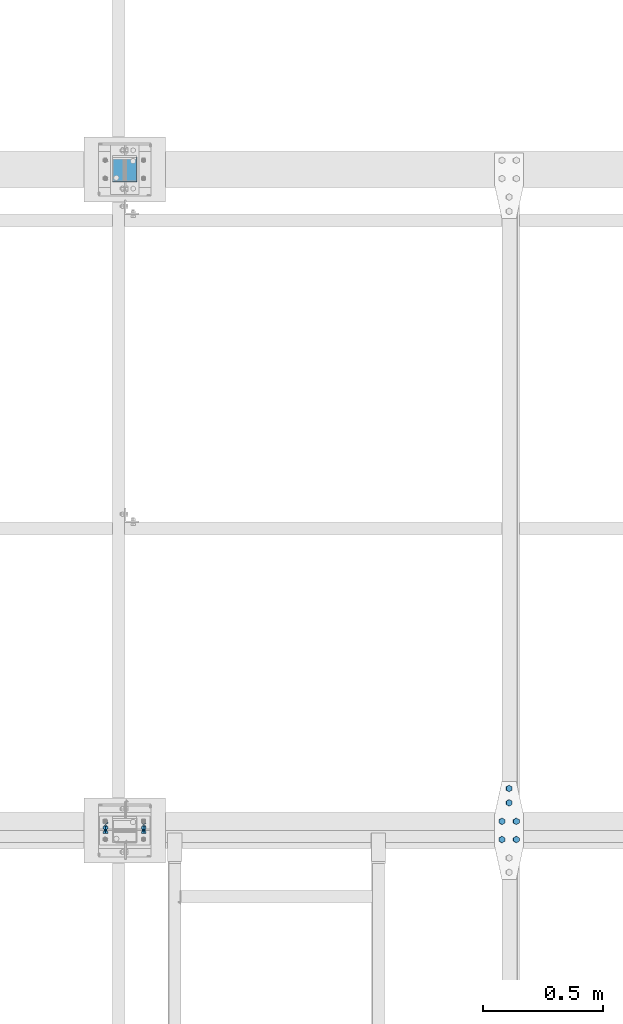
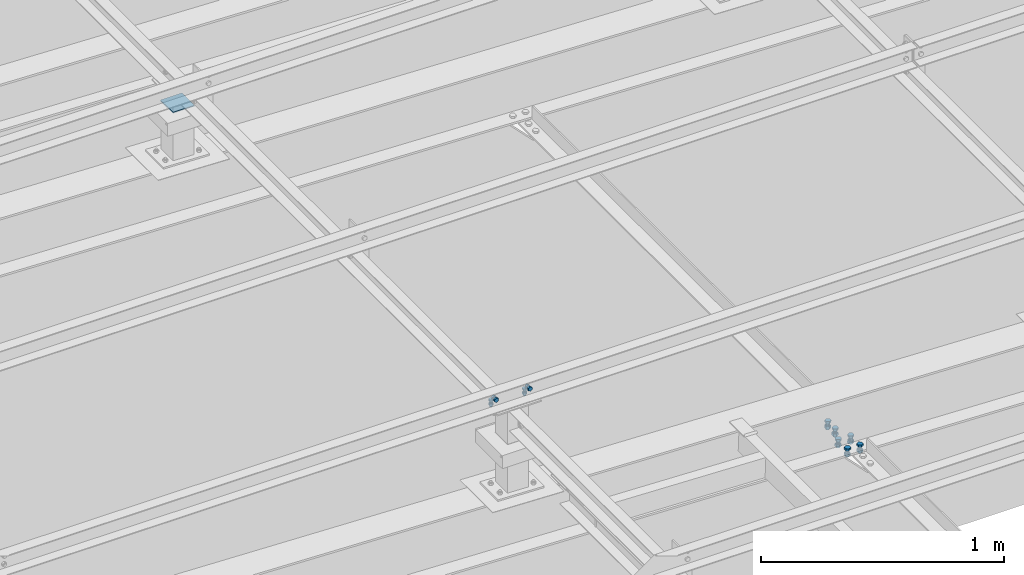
# One storey, part 212 of 3134: 5 mechanical fasteners, 3 elements without a shape of their own.
"""IFC2X3 building model written with IfcOpenShell, lengths in millimetres."""

from ifc_helpers import new_model, si_unit, frame, origin_with_axes, place, context, subcontext, project, spatial, faceted_brep, source, transform, mapped, material, type_object, element, aggregate, save


model = new_model("IFC2X3")

# Units and contexts
model_context = context("Model", 3, precision=1e-05, world=origin_with_axes())
body_context = subcontext(model_context, "Body", "Model", "MODEL_VIEW")
ifc_project = project(units=[si_unit("LENGTHUNIT", "METRE", prefix="MILLI"), si_unit("AREAUNIT", "SQUARE_METRE"), si_unit("VOLUMEUNIT", "CUBIC_METRE"), si_unit("MASSUNIT", "GRAM", prefix="KILO"), si_unit("TIMEUNIT", "SECOND"), si_unit("PLANEANGLEUNIT", "RADIAN"), si_unit("SOLIDANGLEUNIT", "STERADIAN"), si_unit("THERMODYNAMICTEMPERATUREUNIT", "DEGREE_CELSIUS"), si_unit("LUMINOUSINTENSITYUNIT", "LUMEN")], contexts=[model_context])

# Site, building, storey
site_placement = place(None, origin_with_axes())
site = spatial("IfcSite", under=ifc_project, at=site_placement, CompositionType="ELEMENT")
building_placement = place(site_placement, origin_with_axes())
building = spatial("IfcBuilding", under=site, at=building_placement, Name="Undefined", CompositionType="ELEMENT")
storey_placement = place(building_placement, origin_with_axes())
storey = spatial("IfcBuildingStorey", under=building, at=storey_placement, Name="Undefined", CompositionType="ELEMENT", Elevation=0.0)

# Assembly, mechanical fastener
assembly_1_placement = place(storey_placement, origin_with_axes())
assembly_1 = element("IfcElementAssembly", 1, at=assembly_1_placement, inside=storey, AssemblyPlace="NOTDEFINED", PredefinedType="RIGID_FRAME")
ifc_material_1 = material(Name="8.8")
mechanical_fastener_type = type_object("IfcMechanicalFastenerType", Name="Bolt assembly")
shared_shape_1 = source(origin_with_axes(), body_context, "Body", "Brep", [
    faceted_brep([(10.9696551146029, -14.0, 0.0), (5.48482755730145, -14.0, 9.5), (-5.48482755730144, -14.0, 9.5), (-10.9696551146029, -14.0, 1.34339530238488e-15), (-5.48482755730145, -14.0, -9.5), (5.48482755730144, -14.0, -9.50000000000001), (5.48482755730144, -6.0, -9.50000000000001), (-5.48482755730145, -6.0, -9.5), (-10.9696551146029, -6.0, 1.34339530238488e-15), (-5.48482755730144, -6.0, 9.5), (5.48482755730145, -6.0, 9.5), (10.9696551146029, -6.0, 0.0), (6.0, -6.0, 0.0), (5.19615242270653, -6.0, 3.00000000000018), (2.99999999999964, -6.0, 5.19615242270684), (-6.21801588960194e-13, -6.0, 6.0), (-3.00000000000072, -6.0, 5.19615242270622), (-5.19615242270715, -6.0, 2.9999999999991), (-6.0, -6.0, -1.24360317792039e-12), (-5.19615242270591, -6.0, -3.00000000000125), (-2.99999999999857, -6.0, -5.19615242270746), (1.85874342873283e-12, -6.0, -6.0), (3.00000000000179, -6.0, -5.1961524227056), (5.19615242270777, -6.0, -2.99999999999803), (5.19615242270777, 24.0, -2.99999999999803), (3.00000000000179, 24.0, -5.1961524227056), (1.85874342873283e-12, 24.0, -6.0), (-2.99999999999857, 24.0, -5.19615242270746), (-5.19615242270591, 24.0, -3.00000000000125), (-6.0, 24.0, -1.24360317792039e-12), (-5.19615242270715, 24.0, 2.9999999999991), (-3.00000000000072, 24.0, 5.19615242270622), (-6.21801588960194e-13, 24.0, 6.0), (2.99999999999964, 24.0, 5.19615242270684), (5.19615242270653, 24.0, 3.00000000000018), (6.0, 24.0, 0.0), (10.9696551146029, 6.00000000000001, 0.0), (5.48482755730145, 6.00000000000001, 9.5), (-5.48482755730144, 6.00000000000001, 9.5), (-10.9696551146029, 6.00000000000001, 1.34339530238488e-15), (-5.48482755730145, 6.00000000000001, -9.5), (5.48482755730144, 6.00000000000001, -9.50000000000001), (5.48482755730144, 16.0, -9.50000000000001), (-5.48482755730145, 16.0, -9.5), (-10.9696551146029, 16.0, 1.34339530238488e-15), (-5.48482755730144, 16.0, 9.5), (5.48482755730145, 16.0, 9.5), (10.9696551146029, 16.0, 0.0)], [[[0, 1, 2, 3, 4, 5]], [[6, 7, 8, 9, 10, 11]], [[0, 11, 10, 1]], [[1, 10, 9, 2]], [[2, 9, 8, 3]], [[3, 8, 7, 4]], [[4, 7, 6, 5]], [[5, 6, 11, 0]], [[12, 13, 14, 15, 16, 17, 18, 19, 20, 21, 22, 23]], [[24, 25, 26, 27, 28, 29, 30, 31, 32, 33, 34, 35]], [[12, 35, 34, 13]], [[13, 34, 33, 14]], [[14, 33, 32, 15]], [[15, 32, 31, 16]], [[16, 31, 30, 17]], [[17, 30, 29, 18]], [[18, 29, 28, 19]], [[19, 28, 27, 20]], [[20, 27, 26, 21]], [[21, 26, 25, 22]], [[22, 25, 24, 23]], [[23, 24, 35, 12]], [[36, 37, 38, 39, 40, 41]], [[42, 43, 44, 45, 46, 47]], [[36, 47, 46, 37]], [[37, 46, 45, 38]], [[38, 45, 44, 39]], [[39, 44, 43, 40]], [[40, 43, 42, 41]], [[41, 42, 47, 36]]]),
    faceted_brep([(7.0, -0.1, 0.0), (6.06217782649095, -0.1, 3.50000000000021), (3.49999999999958, -0.1, 6.06217782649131), (-7.25435187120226e-13, -0.1, 7.0), (-3.50000000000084, -0.1, 6.06217782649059), (-6.06217782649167, -0.1, 3.49999999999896), (-7.0, -0.1, -1.45087037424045e-12), (-6.06217782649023, -0.1, -3.50000000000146), (-3.49999999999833, -0.1, -6.06217782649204), (2.1685340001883e-12, -0.1, -7.0), (3.50000000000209, -0.1, -6.06217782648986), (6.0621778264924, -0.1, -3.4999999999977), (6.0621778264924, 6.00000000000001, -3.4999999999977), (3.50000000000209, 6.00000000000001, -6.06217782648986), (2.1685340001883e-12, 6.00000000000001, -7.0), (-3.49999999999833, 6.00000000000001, -6.06217782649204), (-6.06217782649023, 6.00000000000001, -3.50000000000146), (-7.0, 6.00000000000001, -1.45087037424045e-12), (-6.06217782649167, 6.00000000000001, 3.49999999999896), (-3.50000000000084, 6.00000000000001, 6.06217782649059), (-7.25435187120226e-13, 6.00000000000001, 7.0), (3.49999999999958, 6.00000000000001, 6.06217782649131), (6.06217782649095, 6.00000000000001, 3.50000000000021), (7.0, 6.00000000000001, 0.0), (7.0, -5.9, 0.0), (6.06217782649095, -5.9, 3.50000000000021), (3.49999999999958, -5.9, 6.06217782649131), (-7.25435187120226e-13, -5.9, 7.0), (-3.50000000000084, -5.9, 6.06217782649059), (-6.06217782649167, -5.9, 3.49999999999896), (-7.0, -5.9, -1.45087037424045e-12), (-6.06217782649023, -5.9, -3.50000000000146), (-3.49999999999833, -5.9, -6.06217782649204), (2.1685340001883e-12, -5.9, -7.0), (3.50000000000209, -5.9, -6.06217782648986), (6.0621778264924, -5.9, -3.4999999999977), (6.0621778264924, 0.0999999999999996, -3.4999999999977), (3.50000000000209, 0.0999999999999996, -6.06217782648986), (2.1685340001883e-12, 0.0999999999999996, -7.0), (-3.49999999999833, 0.0999999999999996, -6.06217782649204), (-6.06217782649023, 0.0999999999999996, -3.50000000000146), (-7.0, 0.0999999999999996, -1.45087037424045e-12), (-6.06217782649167, 0.0999999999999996, 3.49999999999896), (-3.50000000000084, 0.0999999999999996, 6.06217782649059), (-7.25435187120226e-13, 0.0999999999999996, 7.0), (3.49999999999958, 0.0999999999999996, 6.06217782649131), (6.06217782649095, 0.0999999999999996, 3.50000000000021), (7.0, 0.0999999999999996, 0.0)], [[[0, 1, 2, 3, 4, 5, 6, 7, 8, 9, 10, 11]], [[12, 13, 14, 15, 16, 17, 18, 19, 20, 21, 22, 23]], [[0, 23, 22, 1]], [[1, 22, 21, 2]], [[2, 21, 20, 3]], [[3, 20, 19, 4]], [[4, 19, 18, 5]], [[5, 18, 17, 6]], [[6, 17, 16, 7]], [[7, 16, 15, 8]], [[8, 15, 14, 9]], [[9, 14, 13, 10]], [[10, 13, 12, 11]], [[11, 12, 23, 0]], [[24, 25, 26, 27, 28, 29, 30, 31, 32, 33, 34, 35]], [[36, 37, 38, 39, 40, 41, 42, 43, 44, 45, 46, 47]], [[24, 47, 46, 25]], [[25, 46, 45, 26]], [[26, 45, 44, 27]], [[27, 44, 43, 28]], [[28, 43, 42, 29]], [[29, 42, 41, 30]], [[30, 41, 40, 31]], [[31, 40, 39, 32]], [[32, 39, 38, 33]], [[33, 38, 37, 34]], [[34, 37, 36, 35]], [[35, 36, 47, 24]]]),
])
mechanical_fastener_1_placement = place(assembly_1_placement, frame((3043.33, 45801.66, 4365.0), z_axis=(1.0, 0.0, 0.0), x_axis=(0.0, -1.0, 0.0)))
mechanical_fastener_1 = element("IfcMechanicalFastener", 2, at=mechanical_fastener_1_placement, type_object=mechanical_fastener_type, material=ifc_material_1, Name="Bolt assembly", NominalDiameter=12.0, NominalLength=30.0, context=body_context, shape_type="MappedRepresentation", body=[
    mapped(shared_shape_1, transform((0.0, -5.32963895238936e-10, -79.9999999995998))),
    mapped(shared_shape_1, transform((0.0, 5.3114490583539e-10, 79.9999999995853))),
])

# Assembly, mechanical fasteners
assembly_2_placement = place(storey_placement, origin_with_axes())
assembly_2 = element("IfcElementAssembly", 3, at=assembly_2_placement, inside=storey, Name="PL8", AssemblyPlace="NOTDEFINED", PredefinedType="RIGID_FRAME")
shared_shape_2 = source(origin_with_axes(), body_context, "Body", "Brep", [
    faceted_brep([(13.856406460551, -21.0000017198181, 0.0), (6.92820323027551, -21.0000017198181, 12.0), (-6.92820323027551, -21.0000017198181, 12.0), (-13.856406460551, -21.0000017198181, 1.69692038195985e-15), (-6.92820323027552, -21.0000017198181, -12.0), (6.9282032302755, -21.0000017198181, -12.0), (6.9282032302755, -11.0000017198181, -12.0), (-6.92820323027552, -11.0000017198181, -12.0), (-13.856406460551, -11.0000017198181, 1.69692038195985e-15), (-6.92820323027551, -11.0000017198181, 12.0), (6.92820323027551, -11.0000017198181, 12.0), (13.856406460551, -11.0000017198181, 0.0), (8.0, -11.0000017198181, 0.0), (6.92820323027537, -11.0000017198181, 4.00000000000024), (3.99999999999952, -11.0000017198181, 6.92820323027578), (-8.29068785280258e-13, -11.0000017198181, 8.0), (-4.00000000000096, -11.0000017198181, 6.92820323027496), (-6.9282032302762, -11.0000017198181, 3.99999999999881), (-8.0, -11.0000017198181, -1.65813757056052e-12), (-6.92820323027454, -11.0000017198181, -4.00000000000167), (-3.99999999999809, -11.0000017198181, -6.92820323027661), (2.47832457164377e-12, -11.0000017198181, -8.0), (4.00000000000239, -11.0000017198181, -6.92820323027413), (6.92820323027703, -11.0000017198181, -3.99999999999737), (6.92820323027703, 23.9999999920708, -3.99999999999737), (4.00000000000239, 23.9999999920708, -6.92820323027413), (2.47832457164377e-12, 23.9999999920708, -8.0), (-3.99999999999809, 23.9999999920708, -6.92820323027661), (-6.92820323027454, 23.9999999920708, -4.00000000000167), (-8.0, 23.9999999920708, -1.65813757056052e-12), (-6.9282032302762, 23.9999999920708, 3.99999999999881), (-4.00000000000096, 23.9999999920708, 6.92820323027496), (-8.29068785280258e-13, 23.9999999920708, 8.0), (3.99999999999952, 23.9999999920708, 6.92820323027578), (6.92820323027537, 23.9999999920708, 4.00000000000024), (8.0, 23.9999999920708, 0.0), (13.856406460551, 3.99999999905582, 0.0), (6.92820323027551, 3.99999999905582, 12.0), (-6.92820323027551, 3.99999999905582, 12.0), (-13.856406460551, 3.99999999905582, 1.69692038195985e-15), (-6.92820323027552, 3.99999999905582, -12.0), (6.9282032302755, 3.99999999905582, -12.0), (6.9282032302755, 16.9999999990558, -12.0), (-6.92820323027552, 16.9999999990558, -12.0), (-13.856406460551, 16.9999999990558, 1.69692038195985e-15), (-6.92820323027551, 16.9999999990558, 12.0), (6.92820323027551, 16.9999999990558, 12.0), (13.856406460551, 16.9999999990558, 0.0)], [[[0, 1, 2, 3, 4, 5]], [[6, 7, 8, 9, 10, 11]], [[0, 11, 10, 1]], [[1, 10, 9, 2]], [[2, 9, 8, 3]], [[3, 8, 7, 4]], [[4, 7, 6, 5]], [[5, 6, 11, 0]], [[12, 13, 14, 15, 16, 17, 18, 19, 20, 21, 22, 23]], [[24, 25, 26, 27, 28, 29, 30, 31, 32, 33, 34, 35]], [[12, 35, 34, 13]], [[13, 34, 33, 14]], [[14, 33, 32, 15]], [[15, 32, 31, 16]], [[16, 31, 30, 17]], [[17, 30, 29, 18]], [[18, 29, 28, 19]], [[19, 28, 27, 20]], [[20, 27, 26, 21]], [[21, 26, 25, 22]], [[22, 25, 24, 23]], [[23, 24, 35, 12]], [[36, 37, 38, 39, 40, 41]], [[42, 43, 44, 45, 46, 47]], [[36, 47, 46, 37]], [[37, 46, 45, 38]], [[38, 45, 44, 39]], [[39, 44, 43, 40]], [[40, 43, 42, 41]], [[41, 42, 47, 36]]]),
    faceted_brep([(9.0, -10.9000017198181, 0.0), (7.79422863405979, -10.9000017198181, 4.50000000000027), (4.49999999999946, -10.9000017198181, 7.79422863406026), (-9.3270238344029e-13, -10.9000017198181, 9.0), (-4.50000000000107, -10.9000017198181, 7.79422863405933), (-7.79422863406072, -10.9000017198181, 4.49999999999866), (-9.0, -10.9000017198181, -1.86540476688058e-12), (-7.79422863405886, -10.9000017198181, -4.50000000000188), (-4.49999999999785, -10.9000017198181, -7.79422863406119), (2.78811514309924e-12, -10.9000017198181, -9.0), (4.50000000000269, -10.9000017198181, -7.7942286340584), (7.79422863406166, -10.9000017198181, -4.49999999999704), (7.79422863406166, -3.9, -4.49999999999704), (4.50000000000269, -3.9, -7.7942286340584), (2.78811514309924e-12, -3.9, -9.0), (-4.49999999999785, -3.9, -7.79422863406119), (-7.79422863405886, -3.9, -4.50000000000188), (-9.0, -3.9, -1.86540476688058e-12), (-7.79422863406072, -3.9, 4.49999999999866), (-4.50000000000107, -3.9, 7.79422863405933), (-9.3270238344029e-13, -3.9, 9.0), (4.49999999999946, -3.9, 7.79422863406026), (7.79422863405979, -3.9, 4.50000000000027), (9.0, -3.9, 0.0), (9.0, -4.10000000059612, 0.0), (7.79422863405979, -4.10000000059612, 4.50000000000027), (4.49999999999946, -4.10000000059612, 7.79422863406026), (-9.3270238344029e-13, -4.10000000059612, 9.0), (-4.50000000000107, -4.10000000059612, 7.79422863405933), (-7.79422863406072, -4.10000000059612, 4.49999999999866), (-9.0, -4.10000000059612, -1.86540476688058e-12), (-7.79422863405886, -4.10000000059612, -4.50000000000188), (-4.49999999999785, -4.10000000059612, -7.79422863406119), (2.78811514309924e-12, -4.10000000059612, -9.0), (4.50000000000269, -4.10000000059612, -7.7942286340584), (7.79422863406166, -4.10000000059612, -4.49999999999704), (7.79422863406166, 4.00000375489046, -4.49999999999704), (4.50000000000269, 4.00000375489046, -7.7942286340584), (2.78811514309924e-12, 4.00000375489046, -9.0), (-4.49999999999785, 4.00000375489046, -7.79422863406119), (-7.79422863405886, 4.00000375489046, -4.50000000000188), (-9.0, 4.00000375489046, -1.86540476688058e-12), (-7.79422863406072, 4.00000375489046, 4.49999999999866), (-4.50000000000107, 4.00000375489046, 7.79422863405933), (-9.3270238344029e-13, 4.00000375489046, 9.0), (4.49999999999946, 4.00000375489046, 7.79422863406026), (7.79422863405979, 4.00000375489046, 4.50000000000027), (9.0, 4.00000375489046, 0.0)], [[[0, 1, 2, 3, 4, 5, 6, 7, 8, 9, 10, 11]], [[12, 13, 14, 15, 16, 17, 18, 19, 20, 21, 22, 23]], [[0, 23, 22, 1]], [[1, 22, 21, 2]], [[2, 21, 20, 3]], [[3, 20, 19, 4]], [[4, 19, 18, 5]], [[5, 18, 17, 6]], [[6, 17, 16, 7]], [[7, 16, 15, 8]], [[8, 15, 14, 9]], [[9, 14, 13, 10]], [[10, 13, 12, 11]], [[11, 12, 23, 0]], [[24, 25, 26, 27, 28, 29, 30, 31, 32, 33, 34, 35]], [[36, 37, 38, 39, 40, 41, 42, 43, 44, 45, 46, 47]], [[24, 47, 46, 25]], [[25, 46, 45, 26]], [[26, 45, 44, 27]], [[27, 44, 43, 28]], [[28, 43, 42, 29]], [[29, 42, 41, 30]], [[30, 41, 40, 31]], [[31, 40, 39, 32]], [[32, 39, 38, 33]], [[33, 38, 37, 34]], [[34, 37, 36, 35]], [[35, 36, 47, 24]]]),
])
mechanical_fastener_2_placement = place(assembly_2_placement, frame((4647.50483525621, 45881.67, 3576.15051900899), z_axis=(-0.999388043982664, 0.0, 0.0349791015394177), x_axis=(0.0, 1.0, 0.0)))
mechanical_fastener_2 = element("IfcMechanicalFastener", 4, at=mechanical_fastener_2_placement, type_object=mechanical_fastener_type, material=ifc_material_1, Name="Bolt assembly", NominalDiameter=16.0, NominalLength=35.0, context=body_context, shape_type="MappedRepresentation", body=[
    mapped(shared_shape_2, transform((0.0, 0.0, 0.0))),
    mapped(shared_shape_2, transform((59.9999999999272, 0.0, 5.40239852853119e-10))),
])
shared_shape_3 = source(origin_with_axes(), body_context, "Body", "Brep", [
    faceted_brep([(13.856406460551, -23.2000817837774, 0.0), (6.92820323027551, -23.2000817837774, 12.0), (-6.92820323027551, -23.2000817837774, 12.0), (-13.856406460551, -23.2000817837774, 1.69692038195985e-15), (-6.92820323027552, -23.2000817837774, -12.0), (6.9282032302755, -23.2000817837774, -12.0), (6.9282032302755, -13.2000817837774, -12.0), (-6.92820323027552, -13.2000817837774, -12.0), (-13.856406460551, -13.2000817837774, 1.69692038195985e-15), (-6.92820323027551, -13.2000817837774, 12.0), (6.92820323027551, -13.2000817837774, 12.0), (13.856406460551, -13.2000817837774, 0.0), (8.0, -13.2000817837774, 0.0), (6.92820323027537, -13.2000817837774, 4.00000000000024), (3.99999999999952, -13.2000817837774, 6.92820323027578), (-8.29068785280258e-13, -13.2000817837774, 8.0), (-4.00000000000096, -13.2000817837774, 6.92820323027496), (-6.9282032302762, -13.2000817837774, 3.99999999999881), (-8.0, -13.2000817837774, -1.65813757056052e-12), (-6.92820323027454, -13.2000817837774, -4.00000000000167), (-3.99999999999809, -13.2000817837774, -6.92820323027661), (2.47832457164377e-12, -13.2000817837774, -8.0), (4.00000000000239, -13.2000817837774, -6.92820323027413), (6.92820323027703, -13.2000817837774, -3.99999999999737), (6.92820323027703, 21.7999182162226, -3.99999999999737), (4.00000000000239, 21.7999182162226, -6.92820323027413), (2.47832457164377e-12, 21.7999182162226, -8.0), (-3.99999999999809, 21.7999182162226, -6.92820323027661), (-6.92820323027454, 21.7999182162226, -4.00000000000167), (-8.0, 21.7999182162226, -1.65813757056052e-12), (-6.9282032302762, 21.7999182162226, 3.99999999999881), (-4.00000000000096, 21.7999182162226, 6.92820323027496), (-8.29068785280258e-13, 21.7999182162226, 8.0), (3.99999999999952, 21.7999182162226, 6.92820323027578), (6.92820323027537, 21.7999182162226, 4.00000000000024), (8.0, 21.7999182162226, 0.0), (13.856406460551, 3.99999999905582, 0.0), (6.92820323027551, 3.99999999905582, 12.0), (-6.92820323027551, 3.99999999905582, 12.0), (-13.856406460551, 3.99999999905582, 1.69692038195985e-15), (-6.92820323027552, 3.99999999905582, -12.0), (6.9282032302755, 3.99999999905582, -12.0), (6.9282032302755, 16.9999999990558, -12.0), (-6.92820323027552, 16.9999999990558, -12.0), (-13.856406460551, 16.9999999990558, 1.69692038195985e-15), (-6.92820323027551, 16.9999999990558, 12.0), (6.92820323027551, 16.9999999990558, 12.0), (13.856406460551, 16.9999999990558, 0.0)], [[[0, 1, 2, 3, 4, 5]], [[6, 7, 8, 9, 10, 11]], [[0, 11, 10, 1]], [[1, 10, 9, 2]], [[2, 9, 8, 3]], [[3, 8, 7, 4]], [[4, 7, 6, 5]], [[5, 6, 11, 0]], [[12, 13, 14, 15, 16, 17, 18, 19, 20, 21, 22, 23]], [[24, 25, 26, 27, 28, 29, 30, 31, 32, 33, 34, 35]], [[12, 35, 34, 13]], [[13, 34, 33, 14]], [[14, 33, 32, 15]], [[15, 32, 31, 16]], [[16, 31, 30, 17]], [[17, 30, 29, 18]], [[18, 29, 28, 19]], [[19, 28, 27, 20]], [[20, 27, 26, 21]], [[21, 26, 25, 22]], [[22, 25, 24, 23]], [[23, 24, 35, 12]], [[36, 37, 38, 39, 40, 41]], [[42, 43, 44, 45, 46, 47]], [[36, 47, 46, 37]], [[37, 46, 45, 38]], [[38, 45, 44, 39]], [[39, 44, 43, 40]], [[40, 43, 42, 41]], [[41, 42, 47, 36]]]),
    faceted_brep([(9.0, -13.1000817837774, 0.0), (7.79422863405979, -13.1000817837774, 4.50000000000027), (4.49999999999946, -13.1000817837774, 7.79422863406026), (-9.3270238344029e-13, -13.1000817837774, 9.0), (-4.50000000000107, -13.1000817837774, 7.79422863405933), (-7.79422863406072, -13.1000817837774, 4.49999999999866), (-9.0, -13.1000817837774, -1.86540476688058e-12), (-7.79422863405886, -13.1000817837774, -4.50000000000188), (-4.49999999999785, -13.1000817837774, -7.79422863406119), (2.78811514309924e-12, -13.1000817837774, -9.0), (4.50000000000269, -13.1000817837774, -7.7942286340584), (7.79422863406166, -13.1000817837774, -4.49999999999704), (7.79422863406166, -3.90008197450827, -4.49999999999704), (4.50000000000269, -3.90008197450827, -7.7942286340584), (2.78811514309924e-12, -3.90008197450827, -9.0), (-4.49999999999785, -3.90008197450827, -7.79422863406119), (-7.79422863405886, -3.90008197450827, -4.50000000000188), (-9.0, -3.90008197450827, -1.86540476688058e-12), (-7.79422863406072, -3.90008197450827, 4.49999999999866), (-4.50000000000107, -3.90008197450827, 7.79422863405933), (-9.3270238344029e-13, -3.90008197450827, 9.0), (4.49999999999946, -3.90008197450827, 7.79422863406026), (7.79422863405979, -3.90008197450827, 4.50000000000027), (9.0, -3.90008197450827, 0.0), (9.0, -4.10000000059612, 0.0), (7.79422863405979, -4.10000000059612, 4.50000000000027), (4.49999999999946, -4.10000000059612, 7.79422863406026), (-9.3270238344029e-13, -4.10000000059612, 9.0), (-4.50000000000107, -4.10000000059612, 7.79422863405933), (-7.79422863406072, -4.10000000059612, 4.49999999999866), (-9.0, -4.10000000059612, -1.86540476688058e-12), (-7.79422863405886, -4.10000000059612, -4.50000000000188), (-4.49999999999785, -4.10000000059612, -7.79422863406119), (2.78811514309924e-12, -4.10000000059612, -9.0), (4.50000000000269, -4.10000000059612, -7.7942286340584), (7.79422863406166, -4.10000000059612, -4.49999999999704), (7.79422863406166, 4.00000375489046, -4.49999999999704), (4.50000000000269, 4.00000375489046, -7.7942286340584), (2.78811514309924e-12, 4.00000375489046, -9.0), (-4.49999999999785, 4.00000375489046, -7.79422863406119), (-7.79422863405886, 4.00000375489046, -4.50000000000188), (-9.0, 4.00000375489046, -1.86540476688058e-12), (-7.79422863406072, 4.00000375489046, 4.49999999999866), (-4.50000000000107, 4.00000375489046, 7.79422863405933), (-9.3270238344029e-13, 4.00000375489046, 9.0), (4.49999999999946, 4.00000375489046, 7.79422863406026), (7.79422863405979, 4.00000375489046, 4.50000000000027), (9.0, 4.00000375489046, 0.0)], [[[0, 1, 2, 3, 4, 5, 6, 7, 8, 9, 10, 11]], [[12, 13, 14, 15, 16, 17, 18, 19, 20, 21, 22, 23]], [[0, 23, 22, 1]], [[1, 22, 21, 2]], [[2, 21, 20, 3]], [[3, 20, 19, 4]], [[4, 19, 18, 5]], [[5, 18, 17, 6]], [[6, 17, 16, 7]], [[7, 16, 15, 8]], [[8, 15, 14, 9]], [[9, 14, 13, 10]], [[10, 13, 12, 11]], [[11, 12, 23, 0]], [[24, 25, 26, 27, 28, 29, 30, 31, 32, 33, 34, 35]], [[36, 37, 38, 39, 40, 41, 42, 43, 44, 45, 46, 47]], [[24, 47, 46, 25]], [[25, 46, 45, 26]], [[26, 45, 44, 27]], [[27, 44, 43, 28]], [[28, 43, 42, 29]], [[29, 42, 41, 30]], [[30, 41, 40, 31]], [[31, 40, 39, 32]], [[32, 39, 38, 33]], [[33, 38, 37, 34]], [[34, 37, 36, 35]], [[35, 36, 47, 24]]]),
])
mechanical_fastener_3_placement = place(assembly_2_placement, frame((4647.50483519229, 45728.67, 3576.15051900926), z_axis=(-0.999388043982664, 0.0, 0.0349791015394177), x_axis=(0.0, 1.0, 0.0)))
mechanical_fastener_3 = element("IfcMechanicalFastener", 5, at=mechanical_fastener_3_placement, type_object=mechanical_fastener_type, material=ifc_material_1, Name="Bolt assembly", NominalDiameter=16.0, NominalLength=35.0, context=body_context, shape_type="MappedRepresentation", body=[
    mapped(shared_shape_3, transform((0.0, 4.54747350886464e-13, -30.0000000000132))),
    mapped(shared_shape_3, transform((76.0, -2.00088834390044e-10, -29.9999999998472))),
    mapped(shared_shape_3, transform((0.0, 4.54747350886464e-13, 30.0000000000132))),
    mapped(shared_shape_3, transform((76.0, 1.98269844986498e-10, 29.9999999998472))),
])
aggregate(assembly_2, [mechanical_fastener_2, mechanical_fastener_3])

# Assembly, mechanical fastener
assembly_3_placement = place(storey_placement, origin_with_axes())
assembly_3 = element("IfcElementAssembly", 6, at=assembly_3_placement, inside=storey, AssemblyPlace="NOTDEFINED", PredefinedType="RIGID_FRAME")
ifc_material_2 = material(Name="6.8")
shared_shape_4 = source(origin_with_axes(), body_context, "Body", "Brep", [
    faceted_brep([(51.5, 1.36424205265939e-12, 50.0), (51.3858192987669, 1.36424205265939e-12, 50.5740251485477), (51.0606601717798, 1.36424205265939e-12, 51.0606601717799), (50.5740251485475, 1.36424205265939e-12, 51.385819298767), (-50.0000000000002, 1.36424205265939e-12, 51.5), (-50.7500000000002, 1.36424205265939e-12, 51.2990381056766), (-51.2990381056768, 1.36424205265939e-12, 50.7499999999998), (-51.5, 1.36424205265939e-12, 49.9999999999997), (-51.5, 1.36424205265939e-12, -50.0000000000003), (-51.2990381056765, 1.36424205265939e-12, -50.7500000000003), (-50.7499999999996, 1.36424205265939e-12, -51.2990381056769), (-49.9999999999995, 1.36424205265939e-12, -51.5), (50.0000000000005, 1.36424205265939e-12, -51.5), (50.7500000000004, 1.36424205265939e-12, -51.2990381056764), (51.2990381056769, 1.36424205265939e-12, -50.7499999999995), (51.5, 1.36424205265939e-12, -49.9999999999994), (51.5, 5.10000000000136, -49.9999999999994), (51.2990381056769, 5.10000000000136, -50.7499999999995), (50.7500000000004, 5.10000000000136, -51.2990381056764), (50.0000000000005, 5.10000000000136, -51.5), (-49.9999999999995, 5.10000000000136, -51.5), (-50.7499999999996, 5.10000000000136, -51.2990381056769), (-51.2990381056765, 5.10000000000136, -50.7500000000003), (-51.5, 5.10000000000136, -50.0000000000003), (-51.5, 5.10000000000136, 49.9999999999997), (-51.2990381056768, 5.10000000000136, 50.7499999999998), (-50.7500000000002, 5.10000000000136, 51.2990381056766), (-50.0000000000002, 5.10000000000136, 51.5), (50.5740251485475, 5.10000000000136, 51.385819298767), (51.0606601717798, 5.10000000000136, 51.0606601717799), (51.3858192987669, 5.10000000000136, 50.5740251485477), (51.5, 5.10000000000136, 50.0)], [[[0, 1, 2, 3, 4, 5, 6, 7, 8, 9, 10, 11, 12, 13, 14, 15]], [[16, 17, 18, 19, 20, 21, 22, 23, 24, 25, 26, 27, 28, 29, 30, 31]], [[0, 31, 30, 1]], [[1, 30, 29, 2]], [[2, 29, 28, 3]], [[3, 28, 27, 4]], [[4, 27, 26, 5]], [[5, 26, 25, 6]], [[6, 25, 24, 7]], [[7, 24, 23, 8]], [[8, 23, 22, 9]], [[9, 22, 21, 10]], [[10, 21, 20, 11]], [[11, 20, 19, 12]], [[12, 19, 18, 13]], [[13, 18, 17, 14]], [[14, 17, 16, 15]], [[15, 16, 31, 0]]]),
])
mechanical_fastener_4_placement = place(assembly_3_placement, frame((3043.33, 48525.0, 4190.29), z_axis=(0.0, -1.0, 0.0), x_axis=(-1.0, 0.0, 0.0)))
mechanical_fastener_4 = element("IfcMechanicalFastener", 7, at=mechanical_fastener_4_placement, type_object=mechanical_fastener_type, material=ifc_material_2, Name="Bolt assembly", NominalDiameter=10.0, NominalLength=5.0, context=body_context, shape_type="MappedRepresentation", body=[
    mapped(shared_shape_4, transform((0.0, 0.0, 0.0))),
])
aggregate(assembly_3, [mechanical_fastener_4])

# Mechanical fastener
shared_shape_5 = source(origin_with_axes(), body_context, "Body", "Brep", [
    faceted_brep([(10.9696551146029, -12.0003169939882, 0.0), (5.48482755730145, -12.0003169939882, 9.5), (-5.48482755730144, -12.0003169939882, 9.5), (-10.9696551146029, -12.0003169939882, 1.34339530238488e-15), (-5.48482755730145, -12.0003169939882, -9.5), (5.48482755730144, -12.0003169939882, -9.50000000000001), (5.48482755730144, -4.00031699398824, -9.50000000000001), (-5.48482755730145, -4.00031699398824, -9.5), (-10.9696551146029, -4.00031699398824, 1.34339530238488e-15), (-5.48482755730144, -4.00031699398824, 9.5), (5.48482755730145, -4.00031699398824, 9.5), (10.9696551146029, -4.00031699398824, 0.0), (6.0, -4.00031699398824, 0.0), (5.19615242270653, -4.00031699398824, 3.00000000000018), (2.99999999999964, -4.00031699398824, 5.19615242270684), (-6.21801588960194e-13, -4.00031699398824, 6.0), (-3.00000000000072, -4.00031699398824, 5.19615242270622), (-5.19615242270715, -4.00031699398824, 2.9999999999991), (-6.0, -4.00031699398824, -1.24360317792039e-12), (-5.19615242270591, -4.00031699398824, -3.00000000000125), (-2.99999999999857, -4.00031699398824, -5.19615242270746), (1.85874342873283e-12, -4.00031699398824, -6.0), (3.00000000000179, -4.00031699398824, -5.1961524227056), (5.19615242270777, -4.00031699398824, -2.99999999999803), (5.19615242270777, 20.9997148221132, -2.99999999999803), (3.00000000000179, 20.9997148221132, -5.1961524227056), (1.85874342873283e-12, 20.9997148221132, -6.0), (-2.99999999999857, 20.9997148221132, -5.19615242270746), (-5.19615242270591, 20.9997148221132, -3.00000000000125), (-6.0, 20.9997148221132, -1.24360317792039e-12), (-5.19615242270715, 20.9997148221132, 2.9999999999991), (-3.00000000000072, 20.9997148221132, 5.19615242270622), (-6.21801588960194e-13, 20.9997148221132, 6.0), (2.99999999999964, 20.9997148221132, 5.19615242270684), (5.19615242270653, 20.9997148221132, 3.00000000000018), (6.0, 20.9997148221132, 0.0), (10.9696551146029, 6.00000000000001, 0.0), (5.48482755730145, 6.00000000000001, 9.5), (-5.48482755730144, 6.00000000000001, 9.5), (-10.9696551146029, 6.00000000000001, 1.34339530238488e-15), (-5.48482755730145, 6.00000000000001, -9.5), (5.48482755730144, 6.00000000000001, -9.50000000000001), (5.48482755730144, 16.0, -9.50000000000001), (-5.48482755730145, 16.0, -9.5), (-10.9696551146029, 16.0, 1.34339530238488e-15), (-5.48482755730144, 16.0, 9.5), (5.48482755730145, 16.0, 9.5), (10.9696551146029, 16.0, 0.0)], [[[0, 1, 2, 3, 4, 5]], [[6, 7, 8, 9, 10, 11]], [[0, 11, 10, 1]], [[1, 10, 9, 2]], [[2, 9, 8, 3]], [[3, 8, 7, 4]], [[4, 7, 6, 5]], [[5, 6, 11, 0]], [[12, 13, 14, 15, 16, 17, 18, 19, 20, 21, 22, 23]], [[24, 25, 26, 27, 28, 29, 30, 31, 32, 33, 34, 35]], [[12, 35, 34, 13]], [[13, 34, 33, 14]], [[14, 33, 32, 15]], [[15, 32, 31, 16]], [[16, 31, 30, 17]], [[17, 30, 29, 18]], [[18, 29, 28, 19]], [[19, 28, 27, 20]], [[20, 27, 26, 21]], [[21, 26, 25, 22]], [[22, 25, 24, 23]], [[23, 24, 35, 12]], [[36, 37, 38, 39, 40, 41]], [[42, 43, 44, 45, 46, 47]], [[36, 47, 46, 37]], [[37, 46, 45, 38]], [[38, 45, 44, 39]], [[39, 44, 43, 40]], [[40, 43, 42, 41]], [[41, 42, 47, 36]]]),
    faceted_brep([(7.0, -3.90031233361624, 0.0), (6.06217782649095, -3.90027629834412, 3.50000000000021), (3.49999999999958, -3.90031233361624, 6.06217782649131), (-7.25435187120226e-13, -3.90027629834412, 7.0), (-3.50000000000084, -3.90027629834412, 6.06217782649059), (-6.06217782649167, -3.90027629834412, 3.49999999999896), (-7.0, -3.90031233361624, -1.45087037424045e-12), (-6.06217782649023, -3.90027629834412, -3.50000000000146), (-3.49999999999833, -3.90027629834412, -6.06217782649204), (2.1685340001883e-12, -3.90027629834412, -7.0), (3.50000000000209, -3.90027629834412, -6.06217782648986), (6.0621778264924, -3.90031233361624, -3.4999999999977), (6.0621778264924, 0.0996830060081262, -3.4999999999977), (3.50000000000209, 0.0996830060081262, -6.06217782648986), (2.1685340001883e-12, 0.0996830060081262, -7.0), (-3.49999999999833, 0.0996830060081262, -6.06217782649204), (-6.06217782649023, 0.0996830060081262, -3.50000000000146), (-7.0, 0.0996830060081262, -1.45087037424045e-12), (-6.06217782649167, 0.0997148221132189, 3.49999999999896), (-3.50000000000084, 0.0997148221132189, 6.06217782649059), (-7.25435187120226e-13, 0.0996830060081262, 7.0), (3.49999999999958, 0.0996830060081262, 6.06217782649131), (6.06217782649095, 0.0996830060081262, 3.50000000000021), (7.0, 0.0997148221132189, 0.0), (7.0, -0.1, 0.0), (6.06217782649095, -0.1, 3.50000000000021), (3.49999999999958, -0.1, 6.06217782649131), (-7.25435187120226e-13, -0.1, 7.0), (-3.50000000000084, -0.1, 6.06217782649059), (-6.06217782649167, -0.1, 3.49999999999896), (-7.0, -0.1, -1.45087037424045e-12), (-6.06217782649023, -0.1, -3.50000000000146), (-3.49999999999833, -0.1, -6.06217782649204), (2.1685340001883e-12, -0.1, -7.0), (3.50000000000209, -0.1, -6.06217782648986), (6.0621778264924, -0.1, -3.4999999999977), (6.0621778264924, 6.00000000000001, -3.4999999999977), (3.50000000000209, 6.00000000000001, -6.06217782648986), (2.1685340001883e-12, 6.00000000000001, -7.0), (-3.49999999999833, 6.00000000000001, -6.06217782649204), (-6.06217782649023, 6.00000000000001, -3.50000000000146), (-7.0, 6.00000000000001, -1.45087037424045e-12), (-6.06217782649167, 6.00000000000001, 3.49999999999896), (-3.50000000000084, 6.00000000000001, 6.06217782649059), (-7.25435187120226e-13, 6.00000000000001, 7.0), (3.49999999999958, 6.00000000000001, 6.06217782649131), (6.06217782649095, 6.00000000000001, 3.50000000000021), (7.0, 6.00000000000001, 0.0)], [[[0, 1, 2, 3, 4, 5, 6, 7, 8, 9, 10, 11]], [[12, 13, 14, 15, 16, 17, 18, 19, 20, 21, 22, 23]], [[0, 23, 22, 1]], [[1, 22, 21, 2]], [[2, 21, 20, 3]], [[3, 20, 19, 4]], [[4, 19, 18, 5]], [[5, 18, 17, 6]], [[6, 17, 16, 7]], [[7, 16, 15, 8]], [[8, 15, 14, 9]], [[9, 14, 13, 10]], [[10, 13, 12, 11]], [[11, 12, 23, 0]], [[24, 25, 26, 27, 28, 29, 30, 31, 32, 33, 34, 35]], [[36, 37, 38, 39, 40, 41, 42, 43, 44, 45, 46, 47]], [[24, 47, 46, 25]], [[25, 46, 45, 26]], [[26, 45, 44, 27]], [[27, 44, 43, 28]], [[28, 43, 42, 29]], [[29, 42, 41, 30]], [[30, 41, 40, 31]], [[31, 40, 39, 32]], [[32, 39, 38, 33]], [[33, 38, 37, 34]], [[34, 37, 36, 35]], [[35, 36, 47, 24]]]),
])
mechanical_fastener_5_placement = place(assembly_1_placement, frame((3043.33, 45766.66, 4400.0), z_axis=(1.0, 0.0, 0.0), x_axis=(0.0, 0.0, -1.0)))
mechanical_fastener_5 = element("IfcMechanicalFastener", 8, at=mechanical_fastener_5_placement, type_object=mechanical_fastener_type, material=ifc_material_1, Name="Bolt assembly", NominalDiameter=12.0, NominalLength=25.0, context=body_context, shape_type="MappedRepresentation", body=[
    mapped(shared_shape_5, transform((0.0, -5.32963895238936e-10, -79.9999999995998))),
    mapped(shared_shape_5, transform((0.0, 5.3114490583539e-10, 79.9999999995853))),
])

aggregate(assembly_1, [mechanical_fastener_5, mechanical_fastener_1])

save(model, "model.ifc")
